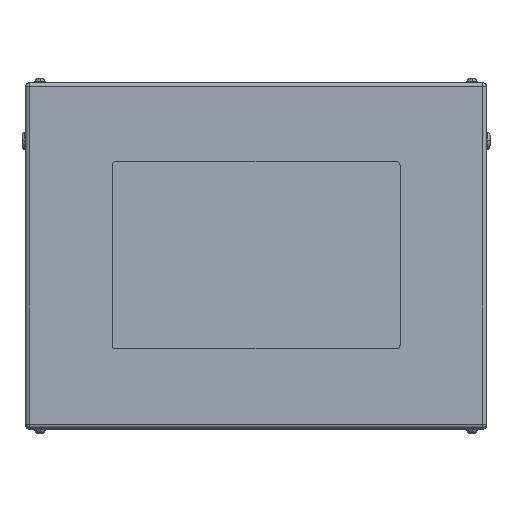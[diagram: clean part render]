
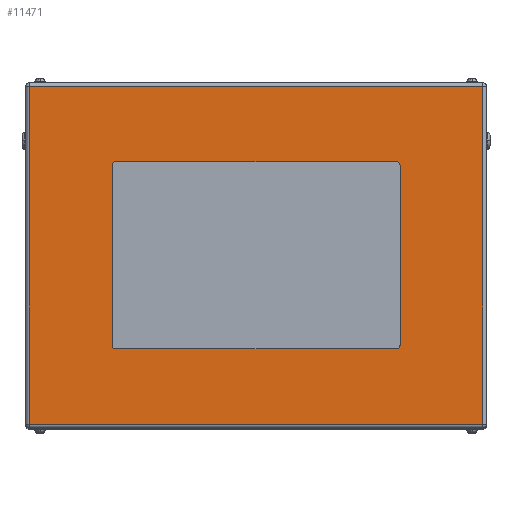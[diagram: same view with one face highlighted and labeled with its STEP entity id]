
A CAD part, top view. The second image highlights one B-rep face of the part: STEP entity #11471.
In plain terms, the highlighted planar face has unit normal (0, 0, 1).
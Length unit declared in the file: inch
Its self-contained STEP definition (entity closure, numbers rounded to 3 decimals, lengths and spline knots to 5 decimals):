
#280 = CARTESIAN_POINT ( 'NONE',  ( 15.734, 11.734, 25.5 ) ) ;
#411 = DIRECTION ( 'NONE',  ( 0., 1., 0. ) ) ;
#644 = CARTESIAN_POINT ( 'NONE',  ( 10., 6.25, 25.5 ) ) ;
#663 = VERTEX_POINT ( 'NONE', #13771 ) ;
#800 = CARTESIAN_POINT ( 'NONE',  ( 9.75, 6.25, 25.5 ) ) ;
#1107 = ORIENTED_EDGE ( 'NONE', *, *, #1781, .F. ) ;
#1161 = FACE_OUTER_BOUND ( 'NONE', #11663, .T. ) ;
#1721 = CARTESIAN_POINT ( 'NONE',  ( 15.734, -11.734, 25.5 ) ) ;
#1781 = EDGE_CURVE ( 'NONE', #6912, #2929, #9452, .T. ) ;
#2031 = CARTESIAN_POINT ( 'NONE',  ( -15.734, 11.734, 25.5 ) ) ;
#2267 = EDGE_CURVE ( 'NONE', #16611, #16129, #5811, .T. ) ;
#2454 = VERTEX_POINT ( 'NONE', #1721 ) ;
#2562 = EDGE_CURVE ( 'NONE', #13434, #2454, #14638, .T. ) ;
#2666 = CARTESIAN_POINT ( 'NONE',  ( -9.75, -6.25, 25.5 ) ) ;
#2687 = VERTEX_POINT ( 'NONE', #11010 ) ;
#2900 = VECTOR ( 'NONE', #7919, 39.37008 ) ;
#2929 = VERTEX_POINT ( 'NONE', #6364 ) ;
#3343 = EDGE_CURVE ( 'NONE', #12492, #12535, #14119, .T. ) ;
#3445 = DIRECTION ( 'NONE',  ( -1., 0., 0. ) ) ;
#3871 = DIRECTION ( 'NONE',  ( 0., 0., 1. ) ) ;
#4166 = CARTESIAN_POINT ( 'NONE',  ( -15.734, -11.734, 25.5 ) ) ;
#4288 = VECTOR ( 'NONE', #17868, 39.37008 ) ;
#4354 = DIRECTION ( 'NONE',  ( -1., 0., 0. ) ) ;
#4652 = ORIENTED_EDGE ( 'NONE', *, *, #9058, .F. ) ;
#4653 = CARTESIAN_POINT ( 'NONE',  ( 16., 12., 25.5 ) ) ;
#4759 = FACE_BOUND ( 'NONE', #6477, .T. ) ;
#4898 = DIRECTION ( 'NONE',  ( 0., 0., -1. ) ) ;
#5055 = VECTOR ( 'NONE', #18521, 39.37008 ) ;
#5262 = AXIS2_PLACEMENT_3D ( 'NONE', #13096, #10197, #17228 ) ;
#5509 = LINE ( 'NONE', #14239, #5055 ) ;
#5525 = CARTESIAN_POINT ( 'NONE',  ( -9.75, -6.5, 25.5 ) ) ;
#5811 = LINE ( 'NONE', #12892, #7824 ) ;
#6315 = CARTESIAN_POINT ( 'NONE',  ( 15.734, -11.734, 25.5 ) ) ;
#6364 = CARTESIAN_POINT ( 'NONE',  ( -10., -6.25, 25.5 ) ) ;
#6477 = EDGE_LOOP ( 'NONE', ( #14509, #6580, #1107, #7167, #4652, #15821, #9465, #10566 ) ) ;
#6540 = VECTOR ( 'NONE', #14392, 39.37008 ) ;
#6580 = ORIENTED_EDGE ( 'NONE', *, *, #13438, .F. ) ;
#6912 = VERTEX_POINT ( 'NONE', #14714 ) ;
#6994 = DIRECTION ( 'NONE',  ( 0., 0., 1. ) ) ;
#7075 = CIRCLE ( 'NONE', #8432, 0.25 ) ;
#7166 = AXIS2_PLACEMENT_3D ( 'NONE', #2666, #6994, #17186 ) ;
#7167 = ORIENTED_EDGE ( 'NONE', *, *, #10975, .F. ) ;
#7394 = DIRECTION ( 'NONE',  ( 0., -1., 0. ) ) ;
#7743 = DIRECTION ( 'NONE',  ( 1., 0., 0. ) ) ;
#7799 = CARTESIAN_POINT ( 'NONE',  ( -9.75, 6.25, 25.5 ) ) ;
#7824 = VECTOR ( 'NONE', #4354, 39.37008 ) ;
#7919 = DIRECTION ( 'NONE',  ( 0., 1., 0. ) ) ;
#8174 = CARTESIAN_POINT ( 'NONE',  ( 10., -6.25, 25.5 ) ) ;
#8299 = LINE ( 'NONE', #644, #2900 ) ;
#8432 = AXIS2_PLACEMENT_3D ( 'NONE', #800, #3871, #18144 ) ;
#8548 = DIRECTION ( 'NONE',  ( -1., 0., 0. ) ) ;
#9058 = EDGE_CURVE ( 'NONE', #12787, #663, #14826, .T. ) ;
#9267 = EDGE_CURVE ( 'NONE', #12535, #2687, #8299, .T. ) ;
#9452 = LINE ( 'NONE', #16075, #16446 ) ;
#9465 = ORIENTED_EDGE ( 'NONE', *, *, #9267, .F. ) ;
#9864 = VECTOR ( 'NONE', #8548, 39.37008 ) ;
#10197 = DIRECTION ( 'NONE',  ( 0., 0., 1. ) ) ;
#10368 = CIRCLE ( 'NONE', #15432, 0.25 ) ;
#10391 = ORIENTED_EDGE ( 'NONE', *, *, #17927, .T. ) ;
#10566 = ORIENTED_EDGE ( 'NONE', *, *, #3343, .F. ) ;
#10975 = EDGE_CURVE ( 'NONE', #663, #6912, #10368, .T. ) ;
#11010 = CARTESIAN_POINT ( 'NONE',  ( 10., 6.25, 25.5 ) ) ;
#11358 = VECTOR ( 'NONE', #411, 39.37008 ) ;
#11381 = CARTESIAN_POINT ( 'NONE',  ( -9.75, -6.5, 25.5 ) ) ;
#11471 = ADVANCED_FACE ( 'NONE', ( #4759, #1161 ), #16157, .F. ) ;
#11663 = EDGE_LOOP ( 'NONE', ( #12930, #13684, #10391, #11856 ) ) ;
#11856 = ORIENTED_EDGE ( 'NONE', *, *, #2267, .T. ) ;
#12492 = VERTEX_POINT ( 'NONE', #17007 ) ;
#12535 = VERTEX_POINT ( 'NONE', #8174 ) ;
#12672 = AXIS2_PLACEMENT_3D ( 'NONE', #4653, #4898, #3445 ) ;
#12787 = VERTEX_POINT ( 'NONE', #13051 ) ;
#12892 = CARTESIAN_POINT ( 'NONE',  ( 16., 11.734, 25.5 ) ) ;
#12930 = ORIENTED_EDGE ( 'NONE', *, *, #18207, .T. ) ;
#13051 = CARTESIAN_POINT ( 'NONE',  ( 9.75, 6.5, 25.5 ) ) ;
#13096 = CARTESIAN_POINT ( 'NONE',  ( 9.75, -6.25, 25.5 ) ) ;
#13278 = CARTESIAN_POINT ( 'NONE',  ( 15.734, 12., 25.5 ) ) ;
#13405 = EDGE_CURVE ( 'NONE', #17902, #12492, #17139, .T. ) ;
#13434 = VERTEX_POINT ( 'NONE', #4166 ) ;
#13438 = EDGE_CURVE ( 'NONE', #2929, #17902, #16204, .T. ) ;
#13684 = ORIENTED_EDGE ( 'NONE', *, *, #2562, .T. ) ;
#13771 = CARTESIAN_POINT ( 'NONE',  ( -9.75, 6.5, 25.5 ) ) ;
#14119 = CIRCLE ( 'NONE', #5262, 0.25 ) ;
#14239 = CARTESIAN_POINT ( 'NONE',  ( -15.734, 12., 25.5 ) ) ;
#14392 = DIRECTION ( 'NONE',  ( 1., 0., 0. ) ) ;
#14509 = ORIENTED_EDGE ( 'NONE', *, *, #13405, .F. ) ;
#14638 = LINE ( 'NONE', #6315, #4288 ) ;
#14714 = CARTESIAN_POINT ( 'NONE',  ( -10., 6.25, 25.5 ) ) ;
#14826 = LINE ( 'NONE', #15924, #9864 ) ;
#14975 = LINE ( 'NONE', #13278, #11358 ) ;
#15432 = AXIS2_PLACEMENT_3D ( 'NONE', #7799, #16515, #7743 ) ;
#15821 = ORIENTED_EDGE ( 'NONE', *, *, #16873, .F. ) ;
#15924 = CARTESIAN_POINT ( 'NONE',  ( -9.75, 6.5, 25.5 ) ) ;
#16075 = CARTESIAN_POINT ( 'NONE',  ( -10., 6.25, 25.5 ) ) ;
#16129 = VERTEX_POINT ( 'NONE', #2031 ) ;
#16157 = PLANE ( 'NONE',  #12672 ) ;
#16204 = CIRCLE ( 'NONE', #7166, 0.25 ) ;
#16446 = VECTOR ( 'NONE', #7394, 39.37008 ) ;
#16515 = DIRECTION ( 'NONE',  ( 0., 0., 1. ) ) ;
#16611 = VERTEX_POINT ( 'NONE', #280 ) ;
#16873 = EDGE_CURVE ( 'NONE', #2687, #12787, #7075, .T. ) ;
#17007 = CARTESIAN_POINT ( 'NONE',  ( 9.75, -6.5, 25.5 ) ) ;
#17139 = LINE ( 'NONE', #11381, #6540 ) ;
#17186 = DIRECTION ( 'NONE',  ( 1., 0., 0. ) ) ;
#17228 = DIRECTION ( 'NONE',  ( 1., 0., 0. ) ) ;
#17868 = DIRECTION ( 'NONE',  ( 1., 0., 0. ) ) ;
#17902 = VERTEX_POINT ( 'NONE', #5525 ) ;
#17927 = EDGE_CURVE ( 'NONE', #2454, #16611, #14975, .T. ) ;
#18144 = DIRECTION ( 'NONE',  ( -1., 0., 0. ) ) ;
#18207 = EDGE_CURVE ( 'NONE', #16129, #13434, #5509, .T. ) ;
#18521 = DIRECTION ( 'NONE',  ( 0., -1., 0. ) ) ;
